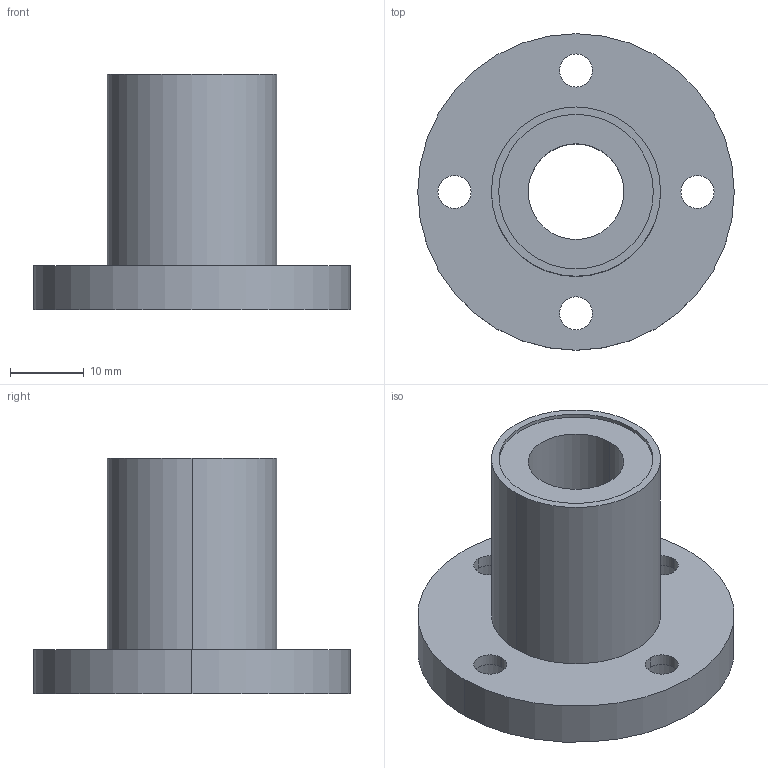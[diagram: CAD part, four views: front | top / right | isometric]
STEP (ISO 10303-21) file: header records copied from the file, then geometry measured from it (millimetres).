
FILE_DESCRIPTION((''),'2;1');
FILE_NAME('C:\Documents and Settings\ｿﾀﾀ蠑ｷ1\ｹﾙﾅﾁ ﾈｭｸ饅\ｺﾎﾇｰﾆﾄﾀﾏ\ﾁｦﾇｰ\LMF__UU\LMF13UU.stp','2005-06-15T09:36:59',('ｿﾀﾀ蠑ｷ1'),(''),'Autodesk Inventor 9','Autodesk Inventor 9','');
FILE_SCHEMA(('AUTOMOTIVE_DESIGN { 1 0 10303 214 1 1 1 1 }'));
Length unit declared in the file: millimetre
Products named in the file (1): LMF__
Bounding box: 43 x 43 x 32 mm (x, y, z)
Volume: 14026 mm3; surface area: 7070.2 mm2
Topology: 1 solids, 1 shells, 38 faces, 84 edges, 56 vertices
Faces by surface type: cylinder 28, plane 10
Entity records: 1127 total; most frequent: DIRECTION 218, CARTESIAN_POINT 179, ORIENTED_EDGE 168, AXIS2_PLACEMENT_3D 95, EDGE_CURVE 84, VERTEX_POINT 56, CIRCLE 56, EDGE_LOOP 56
